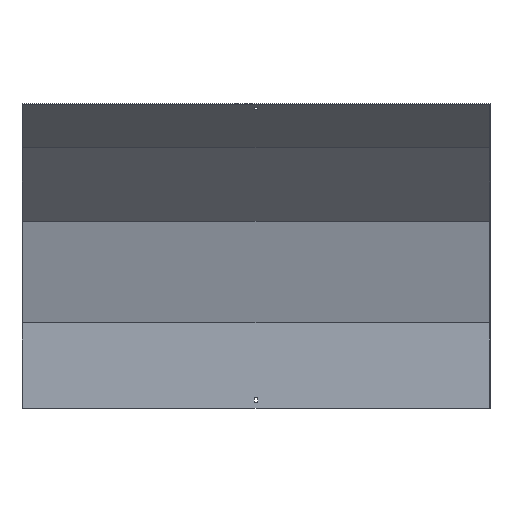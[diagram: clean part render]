
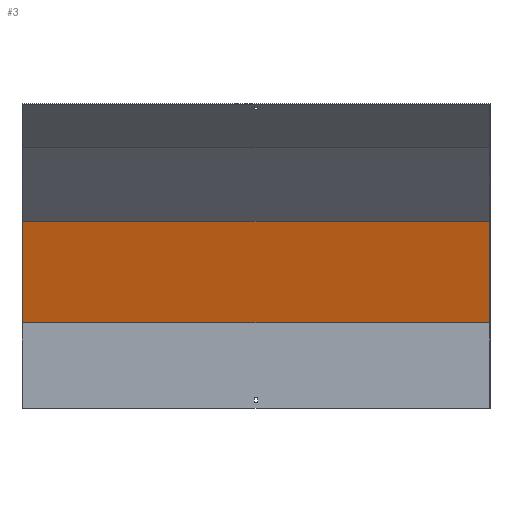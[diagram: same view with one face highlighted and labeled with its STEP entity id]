
A CAD part, front view. The second image highlights one B-rep face of the part: STEP entity #3.
In plain terms, the highlighted planar face has unit normal (0, -0.966, -0.259).
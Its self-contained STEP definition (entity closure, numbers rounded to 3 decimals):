
#3 = ADVANCED_FACE ( 'NONE', ( #763 ), #687, .T. ) ;
#11 = CARTESIAN_POINT ( 'NONE',  ( 451.5, 17.87, 167.788 ) ) ;
#90 = CARTESIAN_POINT ( 'NONE',  ( 450., 18.5, 165.436 ) ) ;
#94 = CARTESIAN_POINT ( 'NONE',  ( 450., 58.62, 15.707 ) ) ;
#95 = VECTOR ( 'NONE', #948, 1000. ) ;
#140 = EDGE_CURVE ( 'NONE', #920, #599, #550, .T. ) ;
#172 = DIRECTION ( 'NONE',  ( -1., 0., 0. ) ) ;
#212 = LINE ( 'NONE', #827, #385 ) ;
#226 = ORIENTED_EDGE ( 'NONE', *, *, #140, .T. ) ;
#235 = DIRECTION ( 'NONE',  ( 0., -0.966, -0.259 ) ) ;
#240 = EDGE_CURVE ( 'NONE', #466, #599, #974, .T. ) ;
#251 = CARTESIAN_POINT ( 'NONE',  ( -450., 18.5, 165.436 ) ) ;
#253 = DIRECTION ( 'NONE',  ( 0., -0.259, 0.966 ) ) ;
#279 = CARTESIAN_POINT ( 'NONE',  ( -450., -33.883, 360.932 ) ) ;
#315 = EDGE_LOOP ( 'NONE', ( #530, #791, #397, #226 ) ) ;
#385 = VECTOR ( 'NONE', #516, 1000. ) ;
#397 = ORIENTED_EDGE ( 'NONE', *, *, #728, .T. ) ;
#418 = EDGE_CURVE ( 'NONE', #738, #466, #212, .T. ) ;
#420 = CARTESIAN_POINT ( 'NONE',  ( -450., 58.62, 15.707 ) ) ;
#466 = VERTEX_POINT ( 'NONE', #251 ) ;
#516 = DIRECTION ( 'NONE',  ( -1., 0., 0. ) ) ;
#530 = ORIENTED_EDGE ( 'NONE', *, *, #240, .F. ) ;
#537 = DIRECTION ( 'NONE',  ( 0., 0.259, -0.966 ) ) ;
#550 = LINE ( 'NONE', #858, #613 ) ;
#599 = VERTEX_POINT ( 'NONE', #279 ) ;
#613 = VECTOR ( 'NONE', #172, 1000. ) ;
#680 = VECTOR ( 'NONE', #253, 1000. ) ;
#687 = PLANE ( 'NONE',  #730 ) ;
#728 = EDGE_CURVE ( 'NONE', #738, #920, #782, .T. ) ;
#730 = AXIS2_PLACEMENT_3D ( 'NONE', #11, #235, #537 ) ;
#738 = VERTEX_POINT ( 'NONE', #90 ) ;
#763 = FACE_OUTER_BOUND ( 'NONE', #315, .T. ) ;
#782 = LINE ( 'NONE', #94, #680 ) ;
#791 = ORIENTED_EDGE ( 'NONE', *, *, #418, .F. ) ;
#827 = CARTESIAN_POINT ( 'NONE',  ( 451.5, 18.5, 165.436 ) ) ;
#858 = CARTESIAN_POINT ( 'NONE',  ( 451.5, -33.883, 360.932 ) ) ;
#920 = VERTEX_POINT ( 'NONE', #954 ) ;
#948 = DIRECTION ( 'NONE',  ( 0., -0.259, 0.966 ) ) ;
#954 = CARTESIAN_POINT ( 'NONE',  ( 450., -33.883, 360.932 ) ) ;
#974 = LINE ( 'NONE', #420, #95 ) ;
